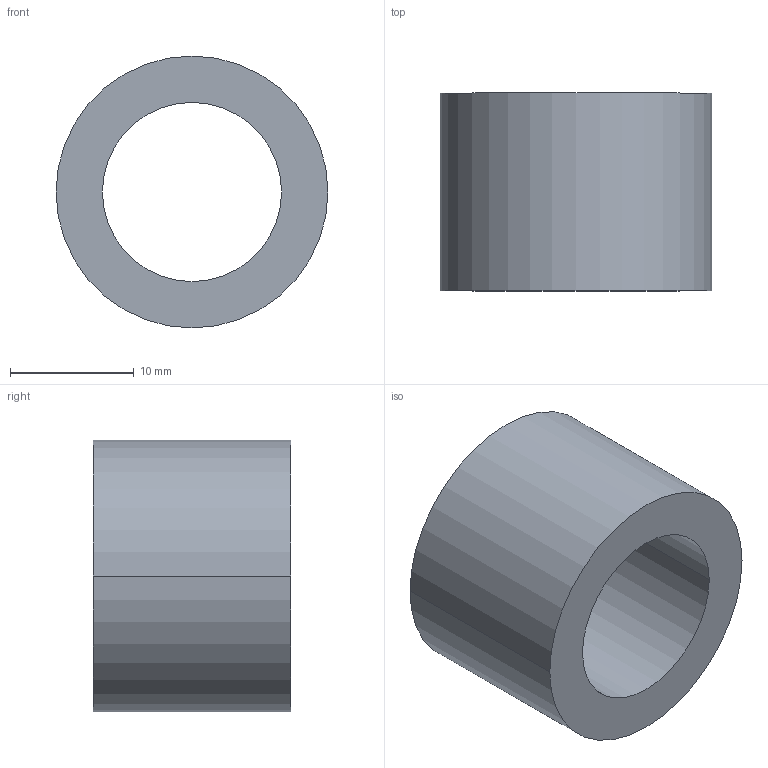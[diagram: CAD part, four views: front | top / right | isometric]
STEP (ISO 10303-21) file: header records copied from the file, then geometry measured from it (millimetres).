
FILE_DESCRIPTION (( 'STEP AP203' ), '1' );
FILE_NAME ('30800.WPP22F14.5.step', '2019-01-23T22:43:55', ( '' ), ( '' ), 'SwSTEP 2.0', 'SolidWorks 2017', '' );
FILE_SCHEMA (( 'CONFIG_CONTROL_DESIGN' ));
Length unit declared in the file: millimetre
Products named in the file (1): 30800.WPP22F14.5
Bounding box: 22 x 16 x 22 mm (x, y, z)
Volume: 3398.5 mm3; surface area: 2227.4 mm2
Topology: 1 solids, 1 shells, 8 faces, 16 edges, 10 vertices
Faces by surface type: cylinder 4, torus 2, plane 2
Entity records: 297 total; most frequent: DIRECTION 46, CARTESIAN_POINT 35, ORIENTED_EDGE 32, AXIS2_PLACEMENT_3D 21, EDGE_CURVE 16, CIRCLE 12, EDGE_LOOP 10, VERTEX_POINT 10
